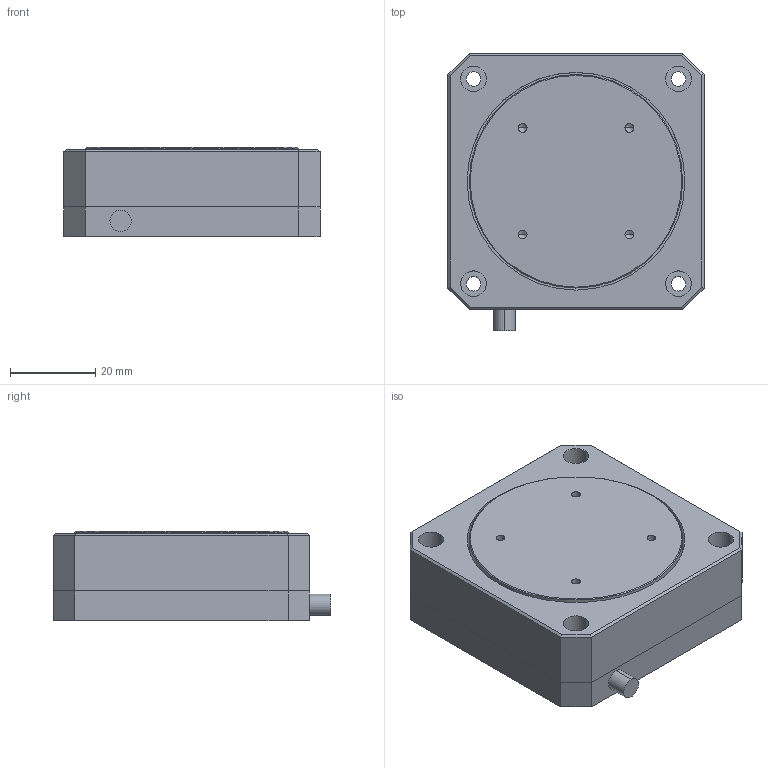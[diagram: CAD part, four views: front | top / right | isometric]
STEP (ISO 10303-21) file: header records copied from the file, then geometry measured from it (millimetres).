
FILE_DESCRIPTION (( 'STEP AP203' ), '1' );
FILE_NAME ('24022蚾饜极(諦誧)-24.02.29.STEP', '2024-02-29T01:46:12', ( 'Windows User' ), ( 'P R C' ), 'SwSTEP 2.0', 'SolidWorks 2016', '' );
FILE_SCHEMA (( 'CONFIG_CONTROL_DESIGN' ));
Length unit declared in the file: millimetre
Products named in the file (1): 24022蚾饜极(諦誧)-24.02.29
Bounding box: 60 x 65 x 21 mm (x, y, z)
Volume: 70884.9 mm3; surface area: 20333.1 mm2
Topology: 2 solids, 2 shells, 70 faces, 174 edges, 106 vertices
Faces by surface type: cylinder 30, plane 30, cone 10
Entity records: 2131 total; most frequent: DIRECTION 370, CARTESIAN_POINT 343, ORIENTED_EDGE 332, EDGE_CURVE 166, AXIS2_PLACEMENT_3D 133, VERTEX_POINT 106, LINE 104, VECTOR 104
